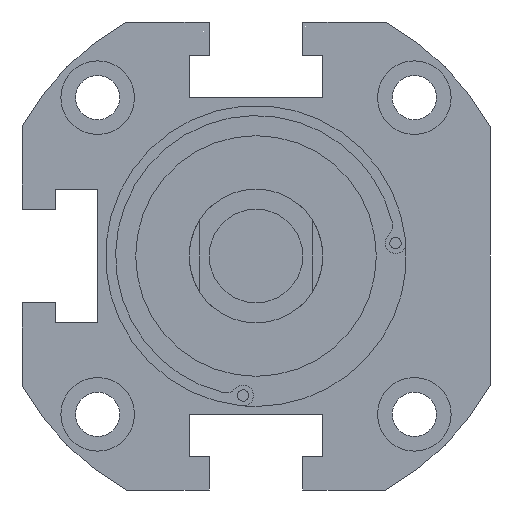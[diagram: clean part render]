
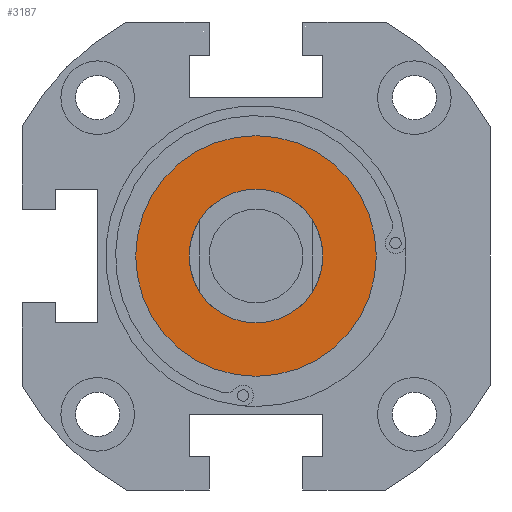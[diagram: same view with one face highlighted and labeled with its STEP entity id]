
A CAD part, front view. The second image highlights one B-rep face of the part: STEP entity #3187.
In plain terms, the highlighted planar face has unit normal (0, -1, 0).
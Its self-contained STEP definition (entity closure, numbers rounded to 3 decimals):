
#18 = EDGE_CURVE ( 'NONE', #2996, #827, #841, .T. ) ;
#73 = CARTESIAN_POINT ( 'NONE',  ( 0., -50., 0. ) ) ;
#118 = CARTESIAN_POINT ( 'NONE',  ( 0., -50., 18. ) ) ;
#243 = CARTESIAN_POINT ( 'NONE',  ( 0., -50., 0. ) ) ;
#378 = DIRECTION ( 'NONE',  ( 0., 1., 0. ) ) ;
#573 = CIRCLE ( 'NONE', #2006, 10. ) ;
#685 = AXIS2_PLACEMENT_3D ( 'NONE', #1187, #4222, #2204 ) ;
#719 = AXIS2_PLACEMENT_3D ( 'NONE', #73, #2818, #1830 ) ;
#740 = DIRECTION ( 'NONE',  ( 0., 0., 1. ) ) ;
#827 = VERTEX_POINT ( 'NONE', #2426 ) ;
#839 = AXIS2_PLACEMENT_3D ( 'NONE', #2465, #378, #740 ) ;
#841 = CIRCLE ( 'NONE', #719, 18. ) ;
#959 = PLANE ( 'NONE',  #3441 ) ;
#1187 = CARTESIAN_POINT ( 'NONE',  ( 0., -50., 0. ) ) ;
#1287 = DIRECTION ( 'NONE',  ( 0., 1., 0. ) ) ;
#1301 = FACE_OUTER_BOUND ( 'NONE', #3336, .T. ) ;
#1331 = CARTESIAN_POINT ( 'NONE',  ( 0., -50., 0. ) ) ;
#1357 = ORIENTED_EDGE ( 'NONE', *, *, #18, .F. ) ;
#1698 = DIRECTION ( 'NONE',  ( 0., 0., 1. ) ) ;
#1830 = DIRECTION ( 'NONE',  ( 0., 0., 1. ) ) ;
#2006 = AXIS2_PLACEMENT_3D ( 'NONE', #243, #4465, #4331 ) ;
#2177 = CIRCLE ( 'NONE', #839, 10. ) ;
#2204 = DIRECTION ( 'NONE',  ( 0., 0., 1. ) ) ;
#2426 = CARTESIAN_POINT ( 'NONE',  ( 0., -50., -18. ) ) ;
#2465 = CARTESIAN_POINT ( 'NONE',  ( 0., -50., 0. ) ) ;
#2485 = EDGE_CURVE ( 'NONE', #2725, #4241, #2177, .T. ) ;
#2511 = EDGE_CURVE ( 'NONE', #827, #2996, #4416, .T. ) ;
#2725 = VERTEX_POINT ( 'NONE', #4309 ) ;
#2783 = EDGE_LOOP ( 'NONE', ( #4273, #4000 ) ) ;
#2818 = DIRECTION ( 'NONE',  ( 0., 1., 0. ) ) ;
#2996 = VERTEX_POINT ( 'NONE', #118 ) ;
#3187 = ADVANCED_FACE ( 'NONE', ( #1301, #3282 ), #959, .F. ) ;
#3282 = FACE_BOUND ( 'NONE', #2783, .T. ) ;
#3302 = ORIENTED_EDGE ( 'NONE', *, *, #2511, .F. ) ;
#3336 = EDGE_LOOP ( 'NONE', ( #3302, #1357 ) ) ;
#3361 = CARTESIAN_POINT ( 'NONE',  ( 0., -50., 10. ) ) ;
#3441 = AXIS2_PLACEMENT_3D ( 'NONE', #1331, #1287, #1698 ) ;
#4000 = ORIENTED_EDGE ( 'NONE', *, *, #2485, .T. ) ;
#4222 = DIRECTION ( 'NONE',  ( 0., 1., 0. ) ) ;
#4241 = VERTEX_POINT ( 'NONE', #3361 ) ;
#4273 = ORIENTED_EDGE ( 'NONE', *, *, #4290, .T. ) ;
#4290 = EDGE_CURVE ( 'NONE', #4241, #2725, #573, .T. ) ;
#4309 = CARTESIAN_POINT ( 'NONE',  ( 0., -50., -10. ) ) ;
#4331 = DIRECTION ( 'NONE',  ( 0., 0., 1. ) ) ;
#4416 = CIRCLE ( 'NONE', #685, 18. ) ;
#4465 = DIRECTION ( 'NONE',  ( 0., 1., 0. ) ) ;
